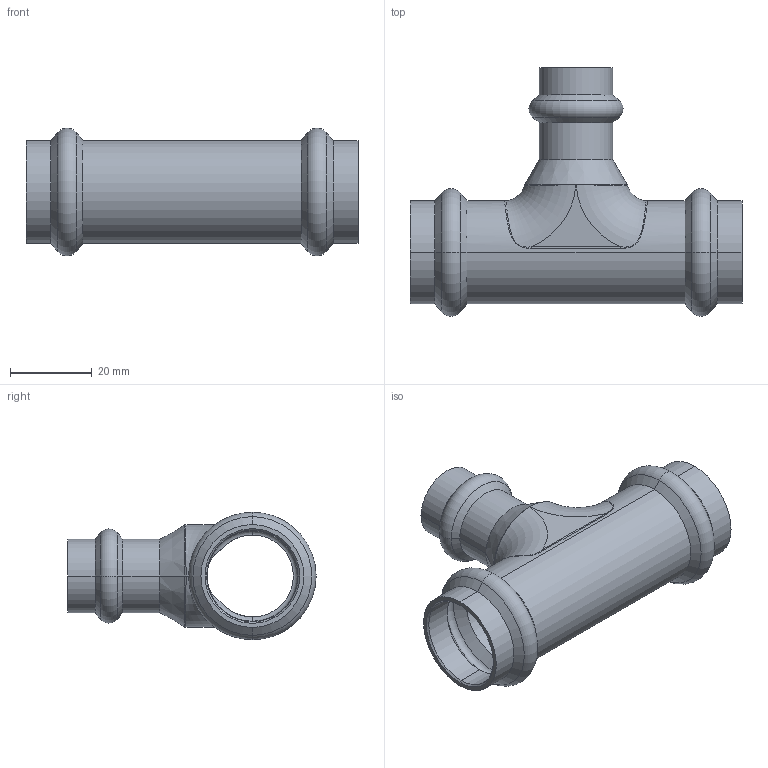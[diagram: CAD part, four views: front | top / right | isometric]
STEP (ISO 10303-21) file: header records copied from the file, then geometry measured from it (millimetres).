
FILE_DESCRIPTION (( 'STEP AP203' ), '1' );
FILE_NAME ('SP5130 Ø22-15-22.STEP', '2017-04-25T14:26:22', ( '' ), ( '' ), 'SwSTEP 2.0', 'SolidWorks 2016', '' );
FILE_SCHEMA (( 'CONFIG_CONTROL_DESIGN' ));
Length unit declared in the file: millimetre
Products named in the file (1): SP5130 Ø22-15-22
Bounding box: 81 x 60.55 x 31.1 mm (x, y, z)
Volume: 14605.5 mm3; surface area: 17111.2 mm2
Topology: 1 solids, 1 shells, 108 faces, 236 edges, 128 vertices
Faces by surface type: cone 36, cylinder 34, torus 25, plane 7, bspline 6
Entity records: 4614 total; most frequent: CARTESIAN_POINT 2208, DIRECTION 531, ORIENTED_EDGE 464, EDGE_CURVE 232, AXIS2_PLACEMENT_3D 231, CIRCLE 128, VERTEX_POINT 128, EDGE_LOOP 114
